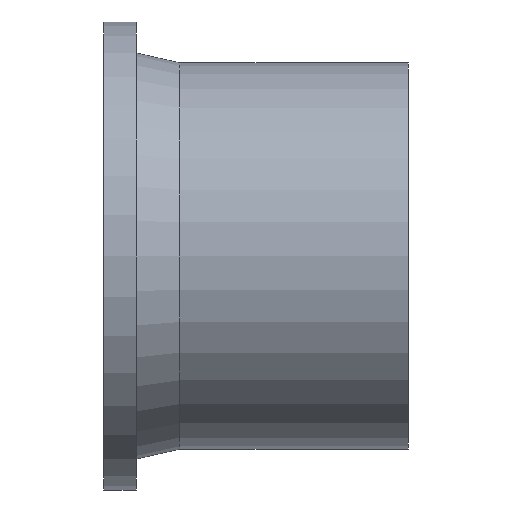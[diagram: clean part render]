
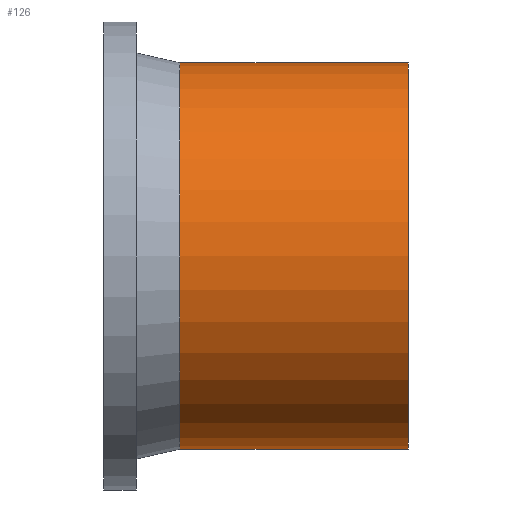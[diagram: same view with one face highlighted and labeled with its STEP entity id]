
A CAD part, front view. The second image highlights one B-rep face of the part: STEP entity #126.
In plain terms, the highlighted cylindrical face has radius 177.5 mm (diameter 355 mm), a full revolution.
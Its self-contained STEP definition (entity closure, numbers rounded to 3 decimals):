
#77=CARTESIAN_POINT('',(70.,177.5,0.));
#78=VERTEX_POINT('',#77);
#79=CARTESIAN_POINT('',(70.,0.,0.));
#80=DIRECTION('',(1.,0.,0.));
#81=DIRECTION('',(0.,1.,0.));
#82=AXIS2_PLACEMENT_3D('',#79,#80,#81);
#83=CIRCLE('',#82,177.5);
#84=EDGE_CURVE('',#78,#78,#83,.T.);
#102=CARTESIAN_POINT('',(280.,177.5,0.));
#103=VERTEX_POINT('',#102);
#104=CARTESIAN_POINT('',(280.,0.,0.));
#105=DIRECTION('',(1.,0.,0.));
#106=DIRECTION('',(0.,1.,0.));
#107=AXIS2_PLACEMENT_3D('',#104,#105,#106);
#108=CIRCLE('',#107,177.5);
#109=EDGE_CURVE('',#103,#103,#108,.T.);
#110=ORIENTED_EDGE('',*,*,#109,.F.);
#111=CARTESIAN_POINT('',(175.,177.5,0.));
#112=DIRECTION('',(1.,0.,0.));
#113=VECTOR('',#112,177.5);
#114=LINE('',#111,#113);
#115=EDGE_CURVE('',#78,#103,#114,.T.);
#116=ORIENTED_EDGE('',*,*,#115,.F.);
#117=ORIENTED_EDGE('',*,*,#84,.T.);
#118=ORIENTED_EDGE('',*,*,#115,.T.);
#119=EDGE_LOOP('',(#110,#116,#117,#118));
#120=FACE_OUTER_BOUND('',#119,.T.);
#121=CARTESIAN_POINT('',(175.,0.,0.));
#122=DIRECTION('',(1.,0.,0.));
#123=DIRECTION('',(0.,1.,0.));
#124=AXIS2_PLACEMENT_3D('',#121,#122,#123);
#125=CYLINDRICAL_SURFACE('',#124,177.5);
#126=ADVANCED_FACE('',(#120),#125,.T.);
